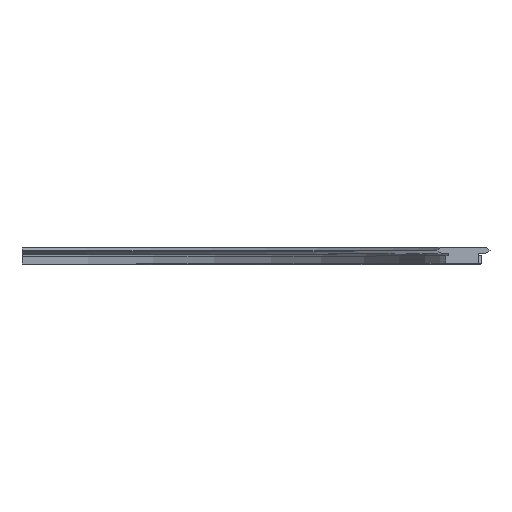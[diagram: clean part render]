
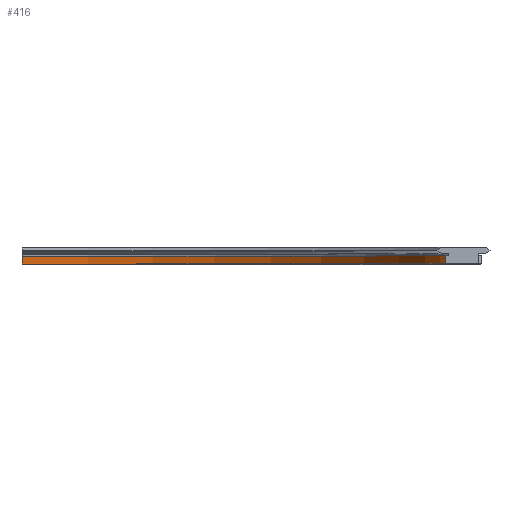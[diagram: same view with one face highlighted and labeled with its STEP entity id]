
A CAD part, top view. The second image highlights one B-rep face of the part: STEP entity #416.
In plain terms, the highlighted cylindrical face has radius 608.25 mm (diameter 1216.5 mm), a partial arc.
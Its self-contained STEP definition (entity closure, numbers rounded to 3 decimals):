
#416 = ADVANCED_FACE( '', ( #2113 ), #2114, .F. );
#2113 = FACE_OUTER_BOUND( '', #4843, .T. );
#2114 = CYLINDRICAL_SURFACE( '', #4844, 608.25 );
#4843 = EDGE_LOOP( '', ( #10602, #10603, #10604, #10605 ) );
#4844 = AXIS2_PLACEMENT_3D( '', #10606, #10607, #10608 );
#10602 = ORIENTED_EDGE( '', *, *, #20307, .T. );
#10603 = ORIENTED_EDGE( '', *, *, #20308, .T. );
#10604 = ORIENTED_EDGE( '', *, *, #20309, .F. );
#10605 = ORIENTED_EDGE( '', *, *, #18091, .T. );
#10606 = CARTESIAN_POINT( '', ( 0., 0., 0. ) );
#10607 = DIRECTION( '', ( 0., 1., 0. ) );
#10608 = DIRECTION( '', ( 0., 0., -1. ) );
#18091 = EDGE_CURVE( '', #21675, #21673, #21676, .T. );
#20307 = EDGE_CURVE( '', #21673, #25766, #25768, .T. );
#20308 = EDGE_CURVE( '', #25766, #25769, #25770, .F. );
#20309 = EDGE_CURVE( '', #21675, #25769, #25771, .T. );
#21673 = VERTEX_POINT( '', #27501 );
#21675 = VERTEX_POINT( '', #27506 );
#21676 = LINE( '', #27507, #27508 );
#25766 = VERTEX_POINT( '', #34258 );
#25768 = CIRCLE( '', #34263, 608.25 );
#25769 = VERTEX_POINT( '', #34264 );
#25770 = LINE( '', #34265, #34266 );
#25771 = CIRCLE( '', #34267, 608.25 );
#27501 = CARTESIAN_POINT( '', ( 2., 1., -608.247 ) );
#27506 = CARTESIAN_POINT( '', ( 2., 12., -608.247 ) );
#27507 = CARTESIAN_POINT( '', ( 2., 0., -608.247 ) );
#27508 = VECTOR( '', #36639, 1000. );
#34258 = CARTESIAN_POINT( '', ( 608.247, 1., -2. ) );
#34263 = AXIS2_PLACEMENT_3D( '', #38986, #38987, #38988 );
#34264 = CARTESIAN_POINT( '', ( 608.247, 12., -2. ) );
#34265 = CARTESIAN_POINT( '', ( 608.247, 0., -2. ) );
#34266 = VECTOR( '', #38989, 1000. );
#34267 = AXIS2_PLACEMENT_3D( '', #38990, #38991, #38992 );
#36639 = DIRECTION( '', ( 0., -1., 0. ) );
#38986 = CARTESIAN_POINT( '', ( 0., 1., 0. ) );
#38987 = DIRECTION( '', ( 0., -1., 0. ) );
#38988 = DIRECTION( '', ( 0., 0., -1. ) );
#38989 = DIRECTION( '', ( 0., -1., 0. ) );
#38990 = CARTESIAN_POINT( '', ( 0., 12., 0. ) );
#38991 = DIRECTION( '', ( 0., -1., 0. ) );
#38992 = DIRECTION( '', ( 0., 0., -1. ) );
